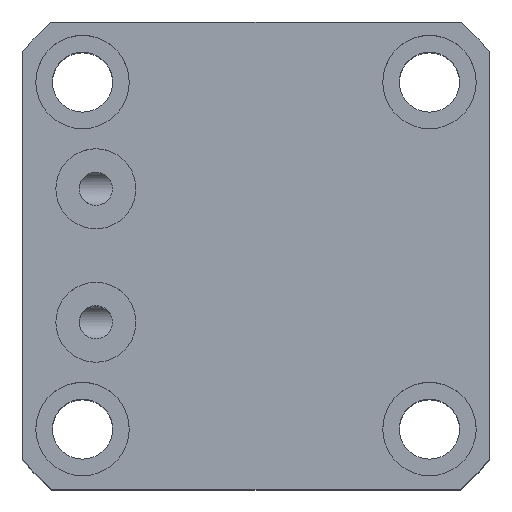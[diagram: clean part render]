
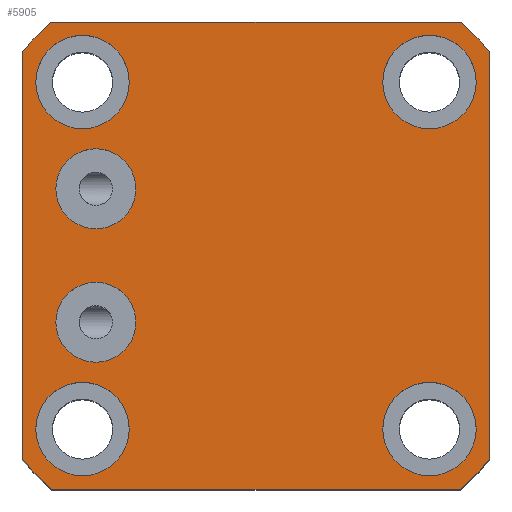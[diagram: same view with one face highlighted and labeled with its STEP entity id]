
A CAD part, top view. The second image highlights one B-rep face of the part: STEP entity #5905.
In plain terms, the highlighted planar face has unit normal (0, 0, 1).
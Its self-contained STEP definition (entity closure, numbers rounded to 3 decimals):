
#546=LINE('',#17433,#1475);
#552=LINE('',#17697,#1481);
#556=LINE('',#17706,#1485);
#560=LINE('',#17715,#1489);
#1475=VECTOR('',#13264,1.);
#1481=VECTOR('',#13390,1.);
#1485=VECTOR('',#13396,1.);
#1489=VECTOR('',#13402,1.);
#4974=PLANE('',#12813);
#5905=ADVANCED_FACE('',(#6543,#6544,#6545,#6546,#6547,#6548,#6549),#4974,
 .T.);
#6395=CIRCLE('',#12756,6.);
#6397=CIRCLE('',#12759,6.);
#6420=CIRCLE('',#12794,7.);
#6422=CIRCLE('',#12797,7.);
#6424=CIRCLE('',#12800,7.);
#6426=CIRCLE('',#12803,7.);
#6428=CIRCLE('',#12809,46.5);
#6429=CIRCLE('',#12810,46.5);
#6430=CIRCLE('',#12811,46.5);
#6431=CIRCLE('',#12812,46.5);
#6543=FACE_BOUND('',#6746,.T.);
#6544=FACE_BOUND('',#6747,.T.);
#6545=FACE_BOUND('',#6748,.T.);
#6546=FACE_BOUND('',#6749,.T.);
#6547=FACE_BOUND('',#6750,.T.);
#6548=FACE_BOUND('',#6751,.T.);
#6549=FACE_BOUND('',#6752,.T.);
#6746=EDGE_LOOP('',(#7454));
#6747=EDGE_LOOP('',(#7455));
#6748=EDGE_LOOP('',(#7456));
#6749=EDGE_LOOP('',(#7457));
#6750=EDGE_LOOP('',(#7458));
#6751=EDGE_LOOP('',(#7459));
#6752=EDGE_LOOP('',(#7460,#7461,#7462,#7463,#7464,#7465,#7466,#7467));
#7454=ORIENTED_EDGE('',*,*,#11055,.F.);
#7455=ORIENTED_EDGE('',*,*,#11057,.F.);
#7456=ORIENTED_EDGE('',*,*,#11080,.F.);
#7457=ORIENTED_EDGE('',*,*,#11082,.F.);
#7458=ORIENTED_EDGE('',*,*,#11084,.F.);
#7459=ORIENTED_EDGE('',*,*,#11086,.F.);
#7460=ORIENTED_EDGE('',*,*,#11089,.T.);
#7461=ORIENTED_EDGE('',*,*,#11100,.T.);
#7462=ORIENTED_EDGE('',*,*,#11035,.T.);
#7463=ORIENTED_EDGE('',*,*,#11101,.T.);
#7464=ORIENTED_EDGE('',*,*,#11093,.T.);
#7465=ORIENTED_EDGE('',*,*,#11102,.T.);
#7466=ORIENTED_EDGE('',*,*,#11097,.T.);
#7467=ORIENTED_EDGE('',*,*,#11103,.T.);
#10059=VERTEX_POINT('',#17431);
#10061=VERTEX_POINT('',#17434);
#10080=VERTEX_POINT('',#17613);
#10082=VERTEX_POINT('',#17618);
#10104=VERTEX_POINT('',#17675);
#10106=VERTEX_POINT('',#17680);
#10108=VERTEX_POINT('',#17685);
#10110=VERTEX_POINT('',#17690);
#10112=VERTEX_POINT('',#17695);
#10114=VERTEX_POINT('',#17698);
#10116=VERTEX_POINT('',#17704);
#10118=VERTEX_POINT('',#17707);
#10120=VERTEX_POINT('',#17713);
#10122=VERTEX_POINT('',#17716);
#11035=EDGE_CURVE('',#10061,#10059,#546,.T.);
#11055=EDGE_CURVE('',#10080,#10080,#6395,.T.);
#11057=EDGE_CURVE('',#10082,#10082,#6397,.T.);
#11080=EDGE_CURVE('',#10104,#10104,#6420,.T.);
#11082=EDGE_CURVE('',#10106,#10106,#6422,.T.);
#11084=EDGE_CURVE('',#10108,#10108,#6424,.T.);
#11086=EDGE_CURVE('',#10110,#10110,#6426,.T.);
#11089=EDGE_CURVE('',#10114,#10112,#552,.T.);
#11093=EDGE_CURVE('',#10118,#10116,#556,.T.);
#11097=EDGE_CURVE('',#10122,#10120,#560,.T.);
#11100=EDGE_CURVE('',#10112,#10061,#6428,.T.);
#11101=EDGE_CURVE('',#10059,#10118,#6429,.T.);
#11102=EDGE_CURVE('',#10116,#10122,#6430,.T.);
#11103=EDGE_CURVE('',#10120,#10114,#6431,.T.);
#12756=AXIS2_PLACEMENT_3D('',#17612,#13289,#13290);
#12759=AXIS2_PLACEMENT_3D('',#17617,#13295,#13296);
#12794=AXIS2_PLACEMENT_3D('',#17674,#13365,#13366);
#12797=AXIS2_PLACEMENT_3D('',#17679,#13371,#13372);
#12800=AXIS2_PLACEMENT_3D('',#17684,#13377,#13378);
#12803=AXIS2_PLACEMENT_3D('',#17689,#13383,#13384);
#12809=AXIS2_PLACEMENT_3D('',#17721,#13407,#13408);
#12810=AXIS2_PLACEMENT_3D('',#17722,#13409,#13410);
#12811=AXIS2_PLACEMENT_3D('',#17723,#13411,#13412);
#12812=AXIS2_PLACEMENT_3D('',#17724,#13413,#13414);
#12813=AXIS2_PLACEMENT_3D('',#17725,#13415,#13416);
#13264=DIRECTION('',(-1.,0.,0.));
#13289=DIRECTION('',(0.,0.,1.));
#13290=DIRECTION('',(1.,0.,0.));
#13295=DIRECTION('',(0.,0.,1.));
#13296=DIRECTION('',(1.,0.,0.));
#13365=DIRECTION('',(0.,0.,1.));
#13366=DIRECTION('',(1.,0.,0.));
#13371=DIRECTION('',(0.,0.,1.));
#13372=DIRECTION('',(1.,0.,0.));
#13377=DIRECTION('',(0.,0.,1.));
#13378=DIRECTION('',(1.,0.,0.));
#13383=DIRECTION('',(0.,0.,1.));
#13384=DIRECTION('',(1.,0.,0.));
#13390=DIRECTION('',(0.,1.,0.));
#13396=DIRECTION('',(0.,-1.,0.));
#13402=DIRECTION('',(1.,0.,0.));
#13407=DIRECTION('',(0.,0.,1.));
#13408=DIRECTION('',(1.,0.,0.));
#13409=DIRECTION('',(0.,0.,1.));
#13410=DIRECTION('',(1.,0.,0.));
#13411=DIRECTION('',(0.,0.,1.));
#13412=DIRECTION('',(1.,0.,0.));
#13413=DIRECTION('',(0.,0.,1.));
#13414=DIRECTION('',(1.,0.,0.));
#13415=DIRECTION('',(0.,0.,1.));
#13416=DIRECTION('',(-1.,0.,0.));
#17431=CARTESIAN_POINT('',(-50.857,24.818,84.832));
#17433=CARTESIAN_POINT('',(-55.242,24.818,84.832));
#17434=CARTESIAN_POINT('',(10.373,24.818,84.832));
#17612=CARTESIAN_POINT('',(-44.242,-20.182,84.832));
#17613=CARTESIAN_POINT('',(-38.242,-20.182,84.832));
#17617=CARTESIAN_POINT('',(-44.242,-0.182,84.832));
#17618=CARTESIAN_POINT('',(-38.242,-0.182,84.832));
#17674=CARTESIAN_POINT('',(-46.242,-36.182,84.832));
#17675=CARTESIAN_POINT('',(-39.242,-36.182,84.832));
#17679=CARTESIAN_POINT('',(5.758,-36.182,84.832));
#17680=CARTESIAN_POINT('',(12.758,-36.182,84.832));
#17684=CARTESIAN_POINT('',(5.758,15.818,84.832));
#17685=CARTESIAN_POINT('',(12.758,15.818,84.832));
#17689=CARTESIAN_POINT('',(-46.242,15.818,84.832));
#17690=CARTESIAN_POINT('',(-39.242,15.818,84.832));
#17695=CARTESIAN_POINT('',(14.758,20.433,84.832));
#17697=CARTESIAN_POINT('',(14.758,24.818,84.832));
#17698=CARTESIAN_POINT('',(14.758,-40.796,84.832));
#17704=CARTESIAN_POINT('',(-55.242,-40.796,84.832));
#17706=CARTESIAN_POINT('',(-55.242,24.818,84.832));
#17707=CARTESIAN_POINT('',(-55.242,20.433,84.832));
#17713=CARTESIAN_POINT('',(10.373,-45.182,84.832));
#17715=CARTESIAN_POINT('',(-55.242,-45.182,84.832));
#17716=CARTESIAN_POINT('',(-50.857,-45.182,84.832));
#17721=CARTESIAN_POINT('',(-20.242,-10.182,84.832));
#17722=CARTESIAN_POINT('',(-20.242,-10.182,84.832));
#17723=CARTESIAN_POINT('',(-20.242,-10.182,84.832));
#17724=CARTESIAN_POINT('',(-20.242,-10.182,84.832));
#17725=CARTESIAN_POINT('',(-20.242,-10.182,84.832));
